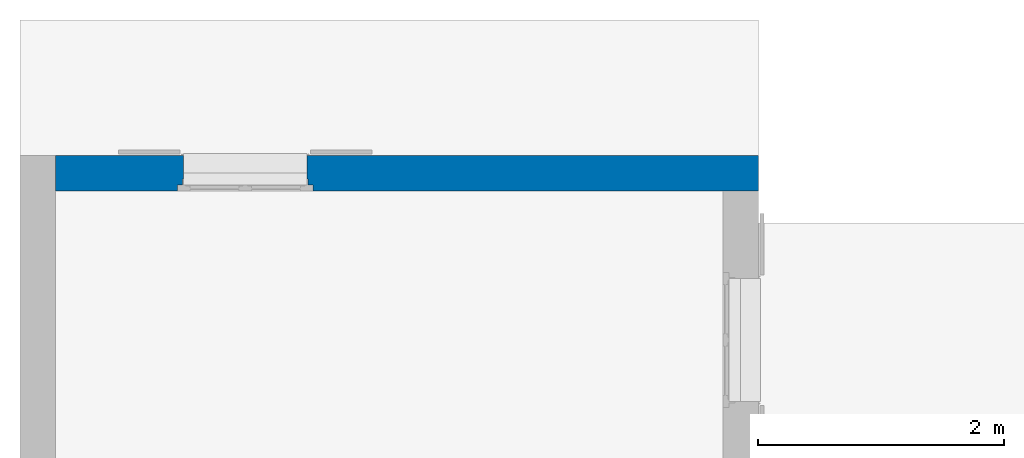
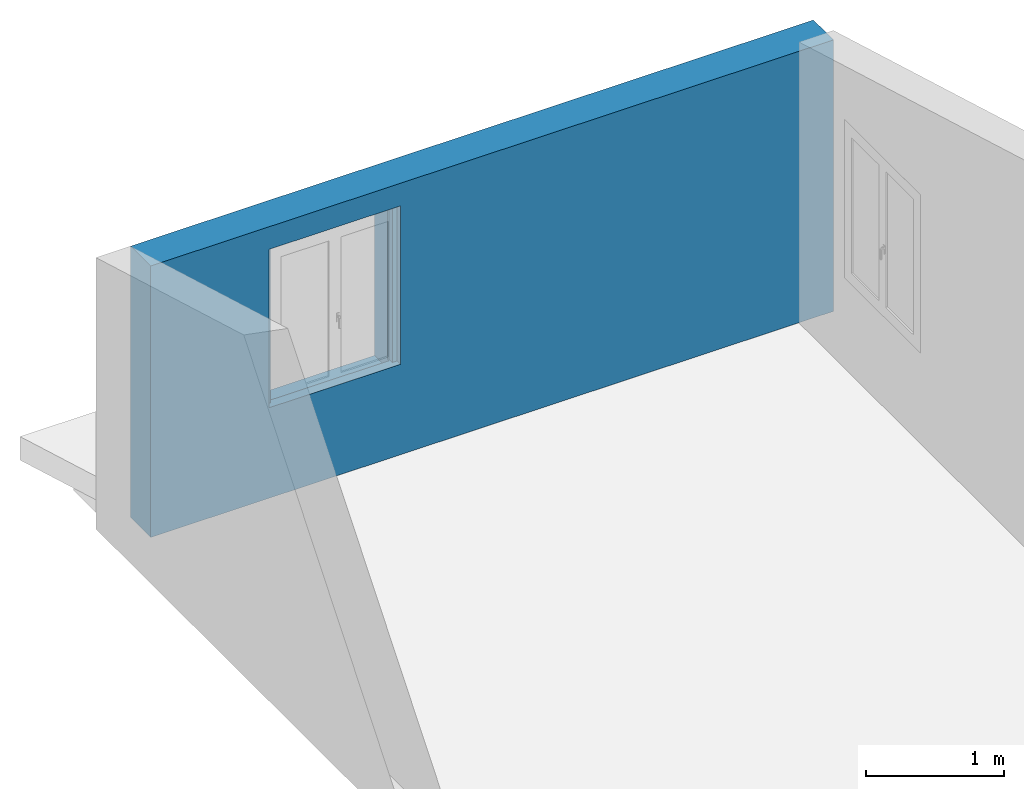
# One storey, part 6 of 6: 1 wall, 1 opening.
"""IFC2X3 building model written with IfcOpenShell, lengths in metres."""

from ifc_helpers import new_model, entity, si_unit, converted_unit, derived_unit, direction, frame, frame_2d, origin, place, context, subcontext, project, spatial, rectangle, extrude, faceted_brep, material, layer, layer_set, layer_usage, type_object, element, save


model = new_model("IFC2X3")

# Units and contexts
model_context = context("Model", 3, precision=1e-05, world=origin(), true_north=direction((6.12303176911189e-17, 1.0)))
context_of_model = context(None, 3, precision=1e-05, world=origin(), true_north=direction((6.12303176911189e-17, 1.0)))
body_context = subcontext(model_context, "Body", "Model", "MODEL_VIEW")
ifc_project = project(units=[si_unit("LENGTHUNIT", "METRE"), si_unit("AREAUNIT", "SQUARE_METRE"), si_unit("VOLUMEUNIT", "CUBIC_METRE"), converted_unit("PLANEANGLEUNIT", "DEGREE", entity("IfcRatioMeasure", 0.0174532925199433), si_unit("PLANEANGLEUNIT", "RADIAN"), dimensions=[0, 0, 0, 0, 0, 0, 0]), si_unit("MASSUNIT", "GRAM", prefix="KILO"), si_unit("TIMEUNIT", "SECOND"), si_unit("FREQUENCYUNIT", "HERTZ"), si_unit("THERMODYNAMICTEMPERATUREUNIT", "DEGREE_CELSIUS"), derived_unit("THERMALTRANSMITTANCEUNIT", [(si_unit("MASSUNIT", "GRAM", prefix="KILO"), 1), (si_unit("THERMODYNAMICTEMPERATUREUNIT", "KELVIN"), -1), (si_unit("TIMEUNIT", "SECOND"), -3)]), derived_unit("VOLUMETRICFLOWRATEUNIT", [(si_unit("LENGTHUNIT", "METRE"), 3), (si_unit("TIMEUNIT", "SECOND"), -1)]), si_unit("ELECTRICCURRENTUNIT", "AMPERE"), si_unit("ELECTRICVOLTAGEUNIT", "VOLT"), si_unit("POWERUNIT", "WATT"), si_unit("FORCEUNIT", "NEWTON", prefix="KILO"), si_unit("ILLUMINANCEUNIT", "LUX"), si_unit("LUMINOUSFLUXUNIT", "LUMEN"), si_unit("LUMINOUSINTENSITYUNIT", "CANDELA"), si_unit("PRESSUREUNIT", "PASCAL")], contexts=[model_context, context_of_model])

# Site, building, storey
site_placement = place(None, origin())
site = spatial("IfcSite", under=ifc_project, at=site_placement, Name="Surface", CompositionType="ELEMENT")
building_placement = place(site_placement, origin())
building = spatial("IfcBuilding", under=site, at=building_placement, CompositionType="ELEMENT")
storey_placement = place(building_placement, frame((0.0, 0.0, 2.64)))
storey = spatial("IfcBuildingStorey", under=building, at=storey_placement, Name="Niveau 1", CompositionType="ELEMENT", Elevation=2.64)

# Wall, opening
ifc_material_1 = material(Name="Maçonnerie - Enduit")
ifc_layer_1 = layer(ifc_material_1, 0.01)
ifc_material_2 = material(Name="Eléments de maçonnerie en béton")
ifc_layer_2 = layer(ifc_material_2, 0.2)
ifc_material_3 = material(Name="Maçonnerie - Isolant")
ifc_layer_3 = layer(ifc_material_3, 0.08)
ifc_layer_set = layer_set([ifc_layer_1, ifc_layer_2, ifc_layer_3], Name="Mur de base:Ext. Parpaing 20 + Isolant 8")
ifc_layer_usage = layer_usage(ifc_layer_set, "AXIS2", "NEGATIVE", 0.145)
wall_type = type_object("IfcWallType", Name="Mur de base:Ext. Parpaing 20 + Isolant 8", PredefinedType="STANDARD", material=ifc_layer_set)
wall_placement = place(storey_placement, frame((-8.50909160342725, 0.746417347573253, 0.0)))
wall = element("IfcWallStandardCase", 1, at=wall_placement, inside=storey, type_object=wall_type, material=ifc_layer_usage, Name="Mur de base:Ext. Parpaing 20 + Isolant 8", ObjectType="Mur de base:Ext. Parpaing 20 + Isolant 8", context=body_context, shape_type="SweptSolid", body=[
    extrude(rectangle(XDim=5.71, YDim=0.29, at=frame_2d((2.855, 4.16333634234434e-17), x_axis=(-1.0, 0.0))), origin(), (0.0, 0.0, 1.0), 2.4),
])
opening_placement = place(wall_placement, frame((0.990000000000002, -0.500000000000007, 0.72)))
element("IfcOpeningElement", 2, at=opening_placement, cuts=wall, Name="Mur de base:Ext. Parpaing 20 + Isolant 8", ObjectType="Opening", context=body_context, shape_type="Brep", body=[
    faceted_brep([(0.0500000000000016, 0.434999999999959, 0.0800000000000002), (0.0500000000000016, 0.455000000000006, 0.0800000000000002), (0.0500000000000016, 0.455000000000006, 1.43), (0.0500000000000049, 1.0, 1.43), (0.0500000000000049, 1.0, 0.0), (0.0500000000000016, 0.434999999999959, 0.0), (1.05, 0.0, 0.0800000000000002), (1.05, 0.355000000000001, 0.0800000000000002), (1.05, 0.355000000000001, 1.43), (1.05, 0.0, 1.43), (0.0499999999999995, 0.0, 0.0800000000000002), (0.0500000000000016, 0.355000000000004, 0.0800000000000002), (0.0, 0.355000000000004, 0.0800000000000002), (0.0, 0.405000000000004, 0.0800000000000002), (0.0400000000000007, 0.405000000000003, 0.0800000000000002), (0.0400000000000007, 0.455000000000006, 0.0800000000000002), (1.05, 0.434999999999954, 0.0800000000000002), (1.05, 0.455000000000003, 0.0800000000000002), (1.06, 0.455000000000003, 0.0800000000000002), (1.06, 0.405, 0.0800000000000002), (1.1, 0.405, 0.0800000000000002), (1.1, 0.355000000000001, 0.0800000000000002), (0.0499999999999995, 0.0, 1.43), (1.05, 0.455000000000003, 1.43), (1.05, 1.0, 1.43), (1.05, 1.0, 0.0), (1.05, 0.434999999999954, 0.0), (0.0, 0.355000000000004, 1.48), (0.0, 0.405000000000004, 1.48), (1.1, 0.405, 1.48), (1.06, 0.405, 1.44), (0.0400000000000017, 0.405000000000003, 1.44), (0.0400000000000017, 0.455000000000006, 1.44), (1.06, 0.455000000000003, 1.44), (0.0500000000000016, 0.355000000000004, 1.43), (1.1, 0.355000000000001, 1.48)], [[[0, 1, 2, 3, 4, 5]], [[6, 7, 8, 9]], [[10, 11, 12, 13, 14, 15, 1, 0, 16, 17, 18, 19, 20, 21, 7, 6]], [[10, 6, 9, 22]], [[3, 2, 23, 24]], [[3, 24, 25, 4]], [[4, 25, 26, 5]], [[5, 26, 16, 0]], [[12, 27, 28, 13]], [[13, 28, 29, 20, 19, 30, 31, 14]], [[14, 31, 32, 15]], [[15, 32, 33, 18, 17, 23, 2, 1]], [[11, 34, 8, 7, 21, 35, 27, 12]], [[27, 35, 29, 28]], [[30, 33, 32, 31]], [[29, 35, 21, 20]], [[19, 18, 33, 30]], [[9, 8, 34, 22]], [[24, 23, 17, 16, 26, 25]], [[22, 34, 11, 10]]]),
])

save(model, "model.ifc")
